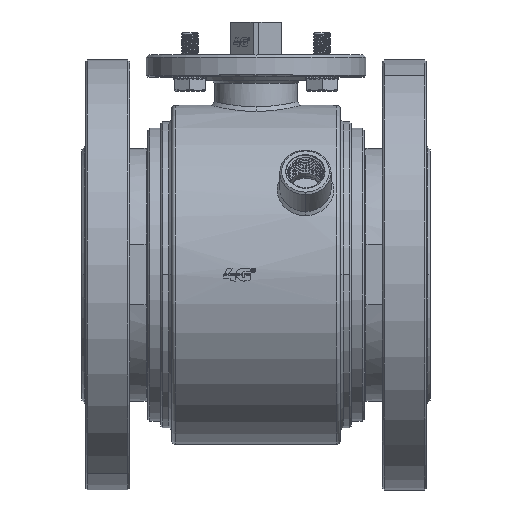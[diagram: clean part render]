
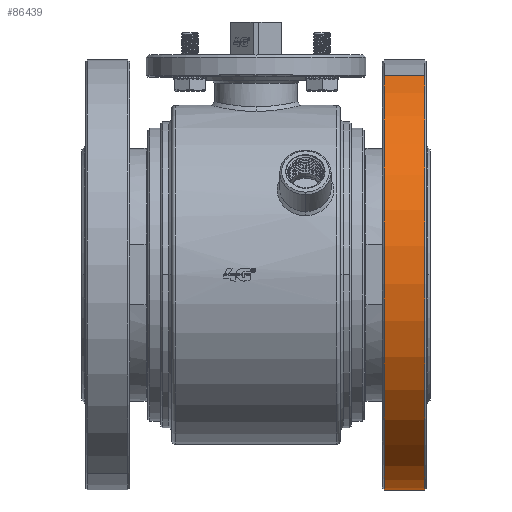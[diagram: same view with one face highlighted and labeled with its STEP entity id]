
A CAD part, top view. The second image highlights one B-rep face of the part: STEP entity #86439.
In plain terms, the highlighted cylindrical face has radius 117.5 mm (diameter 235 mm), a partial arc.
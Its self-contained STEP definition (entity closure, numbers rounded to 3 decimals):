
#3574=CARTESIAN_POINT('',(92.,219.862,0.));
#3575=DIRECTION('',(1.,0.,0.));
#3576=DIRECTION('',(0.,0.924,0.383));
#3577=AXIS2_PLACEMENT_3D('',#3574,#3575,#3576);
#3582=DIRECTION('',(1.,0.,0.));
#3583=VECTOR('',#3582,22.);
#3584=CARTESIAN_POINT('',(70.,111.306,-44.965));
#3585=LINE('',#3584,#3583);
#3589=CARTESIAN_POINT('',(70.,219.862,0.));
#3590=DIRECTION('',(1.,0.,0.));
#3591=DIRECTION('',(0.,0.924,0.383));
#3592=AXIS2_PLACEMENT_3D('',#3589,#3590,#3591);
#3597=DIRECTION('',(1.,0.,0.));
#3598=VECTOR('',#3597,22.);
#3599=CARTESIAN_POINT('',(70.,328.418,44.965));
#3600=LINE('',#3599,#3598);
#84732=CARTESIAN_POINT('',(70.,328.418,44.965));
#84733=CARTESIAN_POINT('',(70.,111.306,
-44.965));
#84734=VERTEX_POINT('',#84732);
#84735=VERTEX_POINT('',#84733);
#84744=CARTESIAN_POINT('',(92.,328.418,44.965));
#84745=CARTESIAN_POINT('',(92.,111.306,
-44.965));
#84746=VERTEX_POINT('',#84744);
#84747=VERTEX_POINT('',#84745);
#86425=CARTESIAN_POINT('',(67.8,219.862,0.));
#86426=DIRECTION('',(1.,0.,0.));
#86427=DIRECTION('',(0.,-0.924,-0.383));
#86428=AXIS2_PLACEMENT_3D('',#86425,#86426,#86427);
#86429=CYLINDRICAL_SURFACE('',#86428,117.5);
#86431=ORIENTED_EDGE('',*,*,#86430,.T.);
#86433=ORIENTED_EDGE('',*,*,#86432,.F.);
#86434=ORIENTED_EDGE('',*,*,#86415,.F.);
#86436=ORIENTED_EDGE('',*,*,#86435,.T.);
#86437=EDGE_LOOP('',(#86431,#86433,#86434,#86436));
#86438=FACE_OUTER_BOUND('',#86437,.F.);
#86439=ADVANCED_FACE('',(#86438),#86429,.T.);
#3578=CIRCLE('',#3577,117.5);
#3593=CIRCLE('',#3592,117.5);
#86415=EDGE_CURVE('',#84734,#84735,#3593,.T.);
#86430=EDGE_CURVE('',#84746,#84747,#3578,.T.);
#86432=EDGE_CURVE('',#84735,#84747,#3585,.T.);
#86435=EDGE_CURVE('',#84734,#84746,#3600,.T.);
